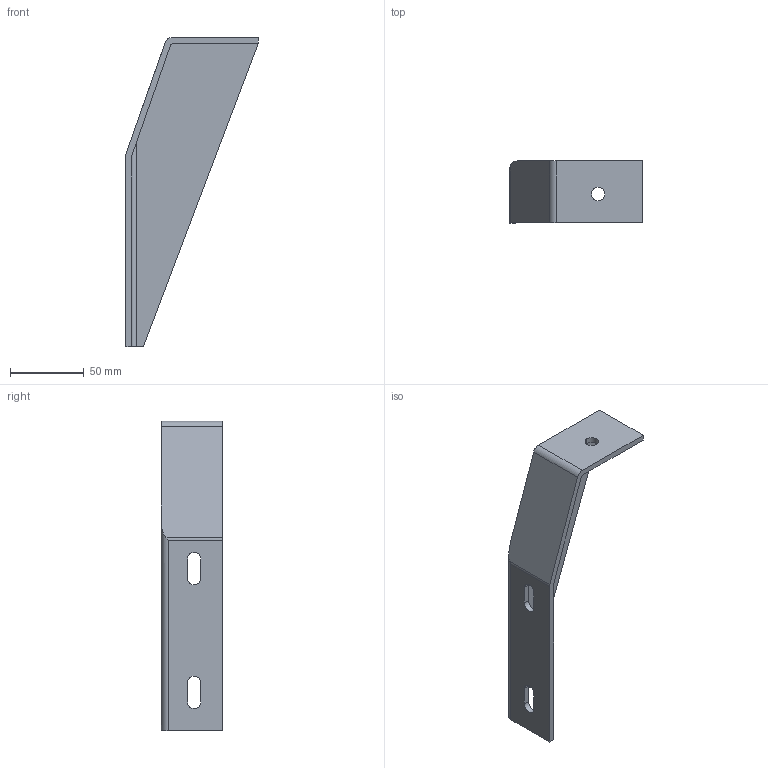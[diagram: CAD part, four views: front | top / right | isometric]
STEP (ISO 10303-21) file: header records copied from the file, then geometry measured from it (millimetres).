
FILE_DESCRIPTION((''),'2;1');
FILE_NAME('SUS90210','2002-12-27T',('Lipro doo'),('Lipro d.o.o.'),'PRO/ENGINEER BY PARAMETRIC TECHNOLOGY CORPORATION, 2001150','PRO/ENGINEER BY PARAMETRIC TECHNOLOGY CORPORATION, 2001150','');
FILE_SCHEMA(('CONFIG_CONTROL_DESIGN'));
Length unit declared in the file: millimetre
Products named in the file (1): SUS90210
Bounding box: 90 x 42 x 210 mm (x, y, z)
Volume: 78289.5 mm3; surface area: 41782.3 mm2
Topology: 1 solids, 1 shells, 28 faces, 77 edges, 51 vertices
Faces by surface type: plane 16, cylinder 12
Entity records: 956 total; most frequent: CARTESIAN_POINT 177, ORIENTED_EDGE 154, DIRECTION 149, EDGE_CURVE 77, VECTOR 53, LINE 53, VERTEX_POINT 51, AXIS2_PLACEMENT_3D 48
